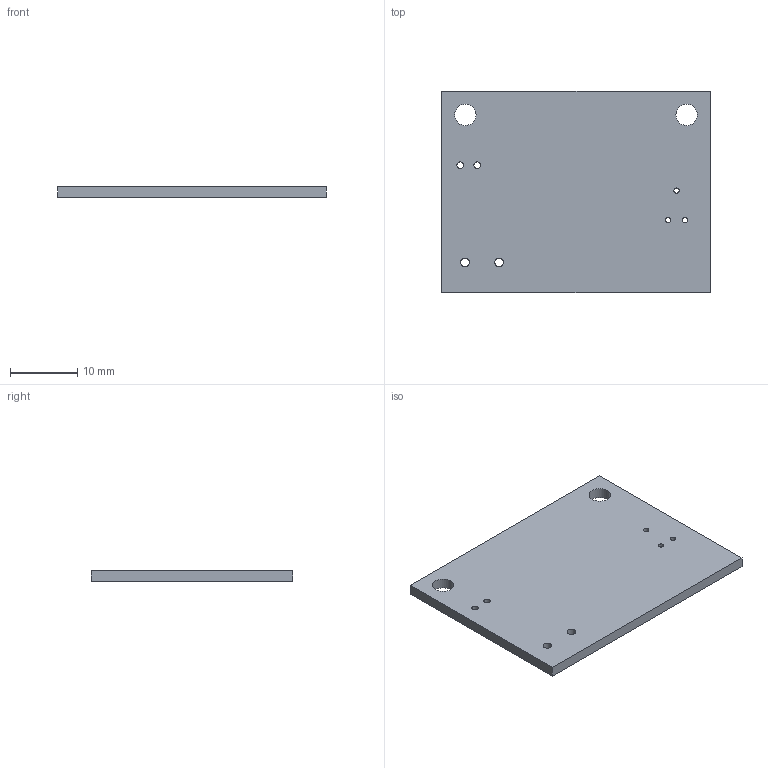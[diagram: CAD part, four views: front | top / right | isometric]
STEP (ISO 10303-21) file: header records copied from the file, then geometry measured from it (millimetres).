
FILE_DESCRIPTION(('KiCad electronic assembly'),'2;1');
FILE_NAME('board.step','2026-10-26T13:45:20',('Pcbnew'),('Kicad'), 'Open CASCADE STEP processor 7.6','KiCad to STEP converter','Unknown' );
FILE_SCHEMA(('AUTOMOTIVE_DESIGN { 1 0 10303 214 1 1 1 1 }'));
Length unit declared in the file: millimetre
Products named in the file (2): board 1; board PCB
Assembly tree (1 placements, depth 2):
  board 1
    board PCB
Bounding box: 40 x 30 x 1.6 mm (x, y, z)
Volume: 1885.1 mm3; surface area: 2647.7 mm2
Topology: 1 solids, 1 shells, 15 faces, 39 edges, 26 vertices
Faces by surface type: cylinder 9, plane 6
Full cylindrical faces by diameter (mm): 0.8 x3, 1 x2, 1.3 x2, 3.2 x2
Entity records: 1115 total; most frequent: CARTESIAN_POINT 268, DIRECTION 151, LINE 81, VECTOR 81, ORIENTED_EDGE 78, PCURVE 78, DEFINITIONAL_REPRESENTATION 78, EDGE_CURVE 39
